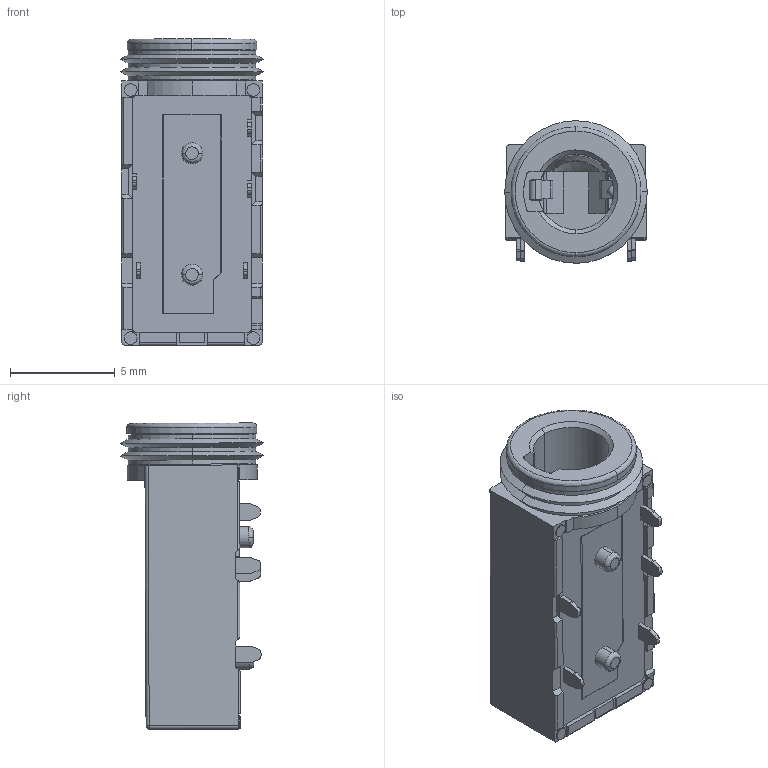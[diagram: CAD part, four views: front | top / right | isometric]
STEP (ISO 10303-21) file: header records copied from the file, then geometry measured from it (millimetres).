
FILE_DESCRIPTION (( 'STEP AP214' ), '1' );
FILE_NAME ('PJ35A080-F05xxBR-C 諦誧芞.STEP', '2024-12-17T06:57:10', ( 'Windows 蚚誧' ), ( 'SysCeo.com' ), 'SwSTEP 2.0', 'SolidWorks 2019', '' );
FILE_SCHEMA (( 'AUTOMOTIVE_DESIGN' ));
Length unit declared in the file: millimetre
Products named in the file (3): 防水圈 更新后; PJ35A080-F05xxBR-C 諦誧芞; PJ35A080-F06J1BR-C
Assembly tree (2 placements, depth 2):
  PJ35A080-F05xxBR-C 諦誧芞
    PJ35A080-F06J1BR-C
    防水圈 更新后
Bounding box: 6.8 x 6.8 x 14.6 mm (x, y, z)
Volume: 290.4 mm3; surface area: 731.7 mm2
Topology: 2 solids, 2 shells, 503 faces, 1375 edges, 878 vertices
Faces by surface type: plane 328, cylinder 129, bspline 23, cone 16, torus 4, sphere 3
Entity records: 16577 total; most frequent: CARTESIAN_POINT 3841, ORIENTED_EDGE 2732, DIRECTION 2504, EDGE_CURVE 1366, VECTOR 1002, LINE 1002, VERTEX_POINT 874, AXIS2_PLACEMENT_3D 751
